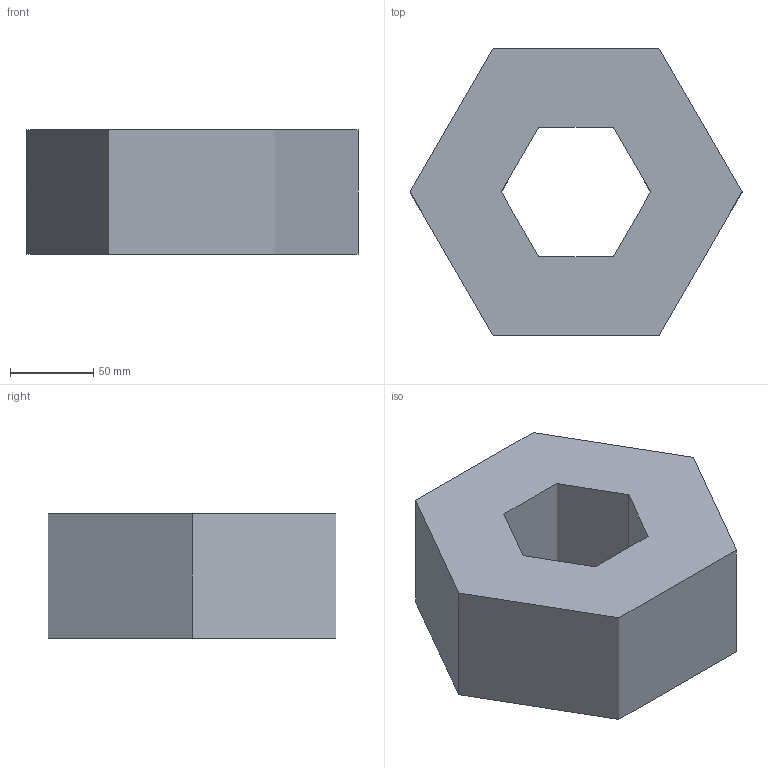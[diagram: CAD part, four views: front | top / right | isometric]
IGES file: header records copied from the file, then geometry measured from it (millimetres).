
Start section: This line is the first line of the start section. You can replace these lines and/or  add as many as you want.
Global section: file name: /dsk_ncs/ncsimul/support/trans/_bcd/b.igs; native system: COMPUTERVISION CADDS5 REV 5.3.2 GRAPHIC SYSTEM; preprocessor: CV Translators IGES/VDA Revision 2.1, STEP Revision 1.2; author: Author; organization: Organization; date: 970731.111024; units: millimetre
Bounding box: 200 x 173.21 x 75 mm (x, y, z)
Topology: 0 solids, 0 shells, 7 faces, 56 edges, 56 vertices
Faces by surface type: bspline 6, plane 1
